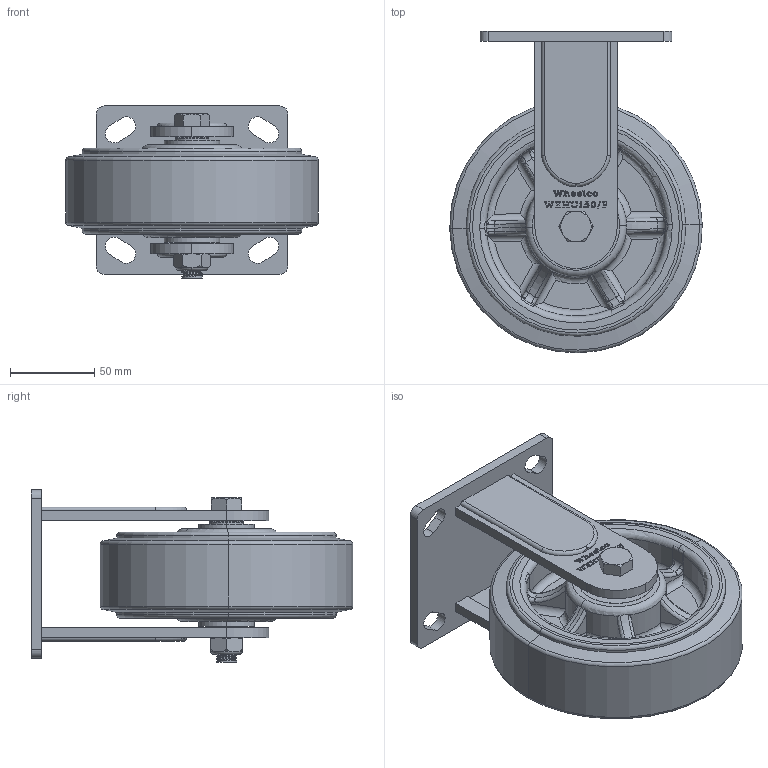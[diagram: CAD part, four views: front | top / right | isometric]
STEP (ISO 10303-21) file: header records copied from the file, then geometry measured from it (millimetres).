
FILE_DESCRIPTION (( 'STEP AP214' ), '1' );
FILE_NAME ('WXHU150-F.step', '2024-01-17T23:03:34', ( '' ), ( '' ), 'SwSTEP 2.0', 'SolidWorks 2022', '' );
FILE_SCHEMA (( 'AUTOMOTIVE_DESIGN' ));
Length unit declared in the file: millimetre
Products named in the file (7): WXHU150-F; M12 X 90; WX150-F; SP33X20X3; SP20-12-62; M12NYLOC; MHU150
Assembly tree (7 placements, depth 2):
  WXHU150-F
    WX150-F
    SP20-12-62
    M12 X 90
    M12NYLOC
    MHU150
    SP33X20X3  x2
Bounding box: 149.97 x 190.99 x 102.25 mm (x, y, z)
Volume: 792737.2 mm3; surface area: 151722.8 mm2
Topology: 7 solids, 7 shells, 830 faces, 2168 edges, 1382 vertices
Faces by surface type: plane 350, cylinder 192, bspline 172, torus 96, cone 20
Entity records: 43934 total; most frequent: CARTESIAN_POINT 21272, ORIENTED_EDGE 4312, DIRECTION 3312, EDGE_CURVE 2156, VERTEX_POINT 1374, LINE 1116, VECTOR 1116, AXIS2_PLACEMENT_3D 1098
